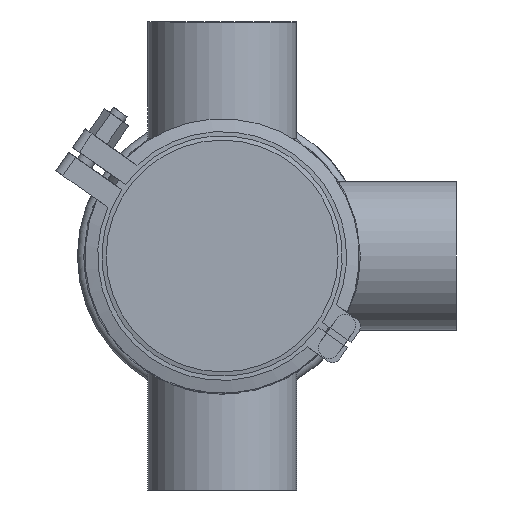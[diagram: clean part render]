
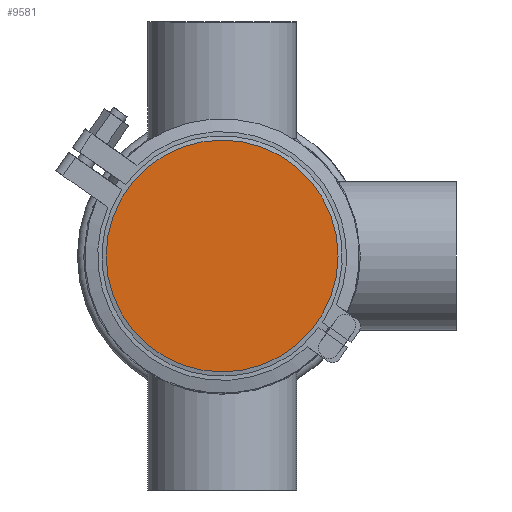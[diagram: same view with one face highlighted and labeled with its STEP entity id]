
A CAD part, front view. The second image highlights one B-rep face of the part: STEP entity #9581.
In plain terms, the highlighted planar face has unit normal (0, -1, 0).
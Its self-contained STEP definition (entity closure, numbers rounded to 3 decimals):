
#47 = DIRECTION ( 'NONE',  ( 0., -1., 0. ) ) ;
#251 = FACE_OUTER_BOUND ( 'NONE', #17190, .T. ) ;
#698 = EDGE_CURVE ( 'NONE', #14148, #14148, #20918, .T. ) ;
#2085 = AXIS2_PLACEMENT_3D ( 'NONE', #13429, #47, #5171 ) ;
#5171 = DIRECTION ( 'NONE',  ( 0., 0., -1. ) ) ;
#6007 = DIRECTION ( 'NONE',  ( 0., 0., 1. ) ) ;
#6109 = DIRECTION ( 'NONE',  ( 0., 1., 0. ) ) ;
#6283 = ORIENTED_EDGE ( 'NONE', *, *, #698, .F. ) ;
#9581 = ADVANCED_FACE ( 'NONE', ( #251 ), #13816, .T. ) ;
#10896 = CARTESIAN_POINT ( 'NONE',  ( 0., 0., 0. ) ) ;
#12926 = AXIS2_PLACEMENT_3D ( 'NONE', #10896, #6109, #6007 ) ;
#13429 = CARTESIAN_POINT ( 'NONE',  ( -54.5, 0., 0. ) ) ;
#13816 = PLANE ( 'NONE',  #2085 ) ;
#14148 = VERTEX_POINT ( 'NONE', #21010 ) ;
#17190 = EDGE_LOOP ( 'NONE', ( #6283 ) ) ;
#20918 = CIRCLE ( 'NONE', #12926, 54.5 ) ;
#21010 = CARTESIAN_POINT ( 'NONE',  ( 0., 0., 54.5 ) ) ;
